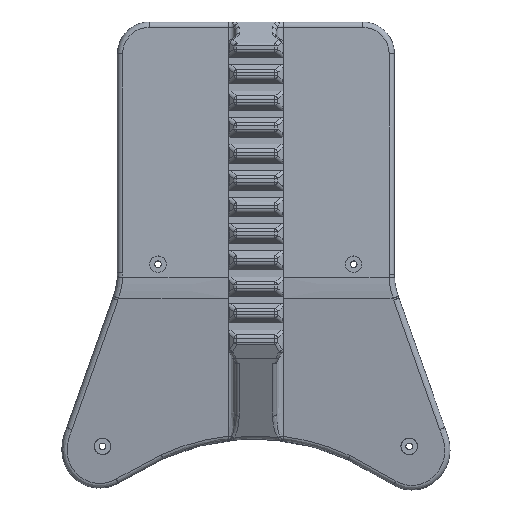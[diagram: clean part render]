
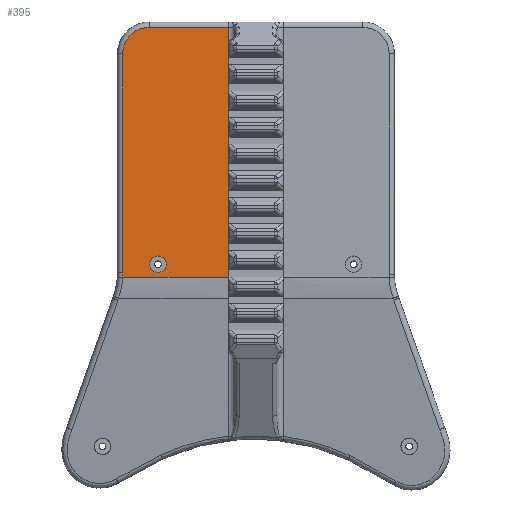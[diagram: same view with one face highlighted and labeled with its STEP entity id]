
A CAD part, top view. The second image highlights one B-rep face of the part: STEP entity #395.
In plain terms, the highlighted planar face has unit normal (0, 0, 1).
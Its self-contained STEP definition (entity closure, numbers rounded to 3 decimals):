
#86=PLANE('',#5419);
#187=FACE_BOUND('',#1200,.T.);
#188=FACE_BOUND('',#1201,.T.);
#395=ADVANCED_FACE('',(#187,#188),#86,.T.);
#1200=EDGE_LOOP('',(#2013));
#1201=EDGE_LOOP('',(#2014,#2015,#2016,#2017,#2018,#2019));
#1560=CIRCLE('',#5416,3.105);
#1561=CIRCLE('',#5417,10.);
#1562=CIRCLE('',#5418,27.593);
#2013=ORIENTED_EDGE('',*,*,#4024,.T.);
#2014=ORIENTED_EDGE('',*,*,#4025,.T.);
#2015=ORIENTED_EDGE('',*,*,#4026,.T.);
#2016=ORIENTED_EDGE('',*,*,#4027,.T.);
#2017=ORIENTED_EDGE('',*,*,#4028,.T.);
#2018=ORIENTED_EDGE('',*,*,#4029,.T.);
#2019=ORIENTED_EDGE('',*,*,#4030,.T.);
#3569=VERTEX_POINT('',#8135);
#3570=VERTEX_POINT('',#8137);
#3571=VERTEX_POINT('',#8138);
#3572=VERTEX_POINT('',#8140);
#3573=VERTEX_POINT('',#8142);
#3574=VERTEX_POINT('',#8144);
#3575=VERTEX_POINT('',#8146);
#4024=EDGE_CURVE('',#3569,#3569,#1560,.T.);
#4025=EDGE_CURVE('',#3570,#3571,#4734,.T.);
#4026=EDGE_CURVE('',#3571,#3572,#4735,.T.);
#4027=EDGE_CURVE('',#3572,#3573,#4736,.T.);
#4028=EDGE_CURVE('',#3573,#3574,#1561,.T.);
#4029=EDGE_CURVE('',#3574,#3575,#4737,.T.);
#4030=EDGE_CURVE('',#3575,#3570,#1562,.T.);
#4734=LINE('',#8136,#5071);
#4735=LINE('',#8139,#5072);
#4736=LINE('',#8141,#5073);
#4737=LINE('',#8145,#5074);
#5071=VECTOR('',#6176,1.);
#5072=VECTOR('',#6177,1.);
#5073=VECTOR('',#6178,1.);
#5074=VECTOR('',#6181,1.);
#5416=AXIS2_PLACEMENT_3D('',#8134,#6174,#6175);
#5417=AXIS2_PLACEMENT_3D('',#8143,#6179,#6180);
#5418=AXIS2_PLACEMENT_3D('',#8147,#6182,#6183);
#5419=AXIS2_PLACEMENT_3D('',#8148,#6184,#6185);
#6174=DIRECTION('',(0.,0.,-1.));
#6175=DIRECTION('',(1.,0.,0.));
#6176=DIRECTION('',(1.,0.,0.));
#6177=DIRECTION('',(0.,1.,0.));
#6178=DIRECTION('',(-1.,0.,0.));
#6179=DIRECTION('',(0.,0.,1.));
#6180=DIRECTION('',(1.,0.,0.));
#6181=DIRECTION('',(0.,-1.,0.));
#6182=DIRECTION('',(0.,0.,-1.));
#6183=DIRECTION('',(1.,0.,0.));
#6184=DIRECTION('',(0.,0.,1.));
#6185=DIRECTION('',(1.,0.,0.));
#8134=CARTESIAN_POINT('',(20.919,68.604,23.701));
#8135=CARTESIAN_POINT('',(24.024,68.604,23.701));
#8136=CARTESIAN_POINT('',(131.,63.707,23.701));
#8137=CARTESIAN_POINT('',(7.556,63.707,23.701));
#8138=CARTESIAN_POINT('',(47.465,63.707,23.701));
#8139=CARTESIAN_POINT('',(47.465,64.593,23.701));
#8140=CARTESIAN_POINT('',(47.465,157.85,23.701));
#8141=CARTESIAN_POINT('',(133.623,157.85,23.701));
#8142=CARTESIAN_POINT('',(17.587,157.85,23.701));
#8143=CARTESIAN_POINT('',(17.587,147.85,23.701));
#8144=CARTESIAN_POINT('',(7.587,147.85,23.701));
#8145=CARTESIAN_POINT('',(7.587,64.593,23.701));
#8146=CARTESIAN_POINT('',(7.587,65.366,23.701));
#8147=CARTESIAN_POINT('',(-20.005,65.081,23.701));
#8148=CARTESIAN_POINT('',(133.623,64.593,23.701));
